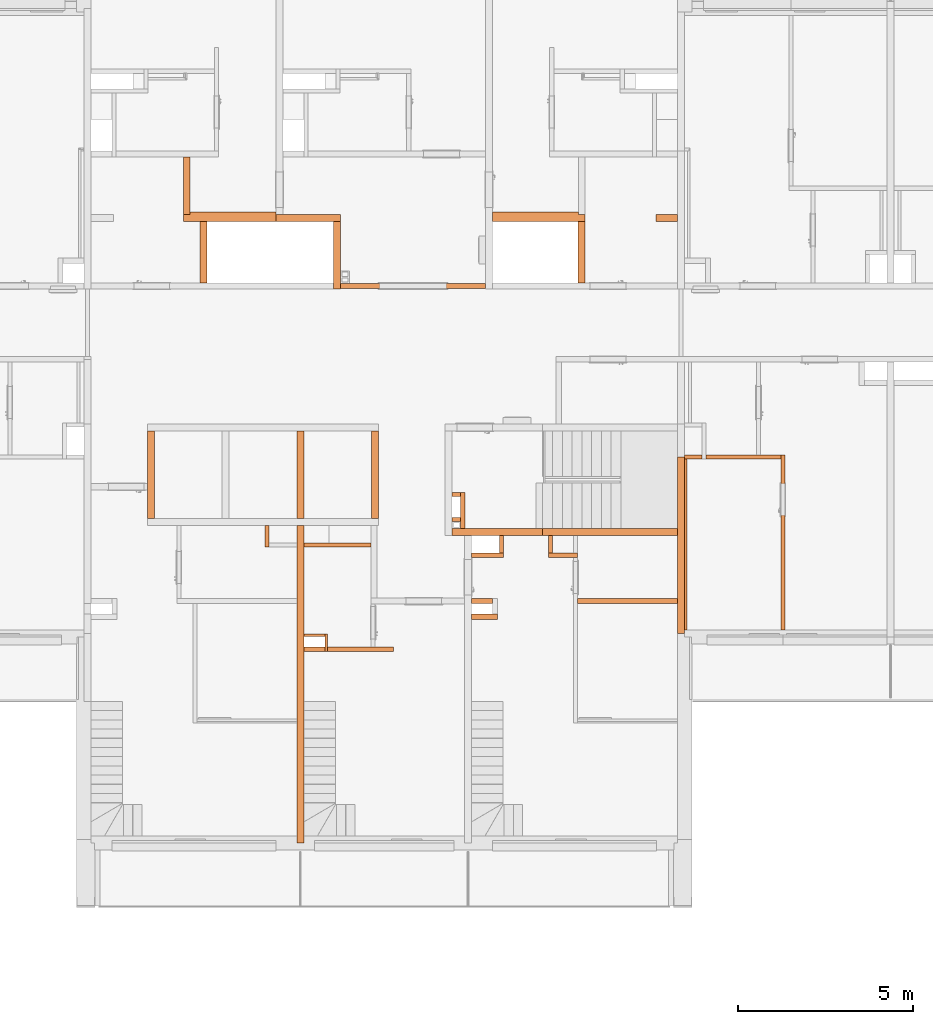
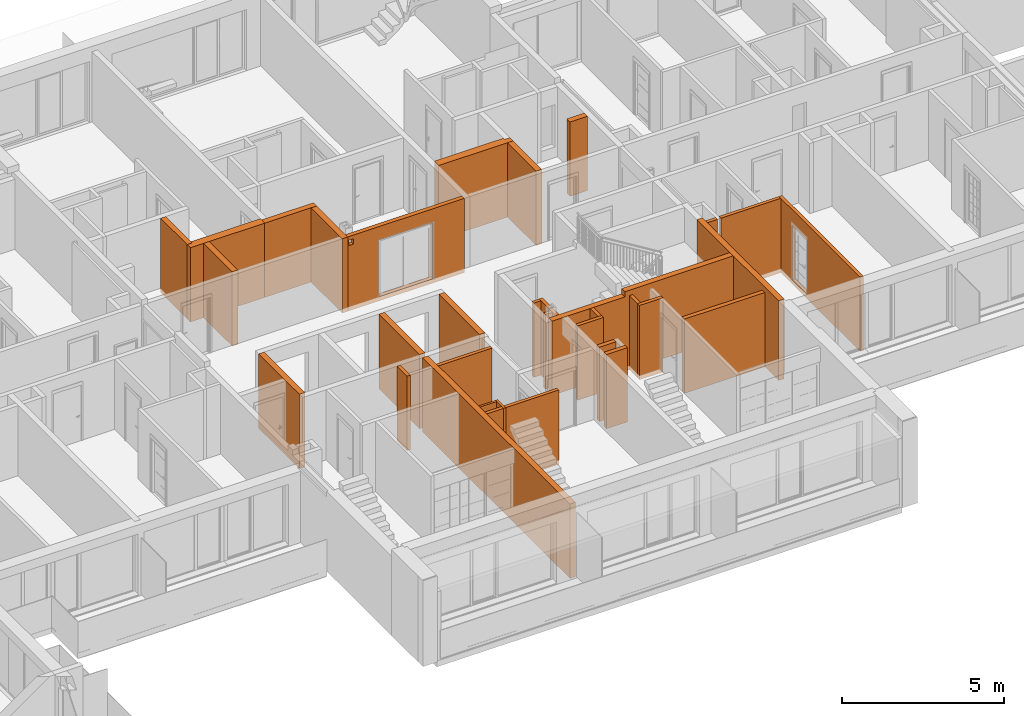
# One storey, part 52 of 61: 32 proxies, 3 openings.
"""IFC2X3 building model written with IfcOpenShell, lengths in millimetres."""

import ifcopenshell
import ifcopenshell.guid

model = None  # the IFC model being written
_history = None  # IfcOwnerHistory: only IFC2X3 demands one
_inside = {}  # id of a spatial element -> (the spatial element, [elements in it])
_under = {}  # id of a project, library or spatial element -> (it, [spatial elements below it])
_declared = {}  # id of a project -> (the project, [libraries it declares])
_typed = {}  # id of a type object -> (the type object, [elements of that type])
_made_of = {}  # id of a material, layer set ... -> (it, [elements and type objects made of it])


def new_model(schema):
    """Start an empty IFC model of exactly this schema.

    Asked for "IFC4X3", IfcOpenShell would pick the latest addendum, in which some entities
    have other attributes; the version numbers below select the first issue.
    IFC2X3 requires an IfcOwnerHistory on every rooted entity: one is made here for all.
    """
    global model, _history
    if schema == "IFC4X3":
        model = ifcopenshell.file(schema_version=(4, 3, 0, 0))
    else:
        model = ifcopenshell.file(schema=schema)
    _inside.clear()
    _under.clear()
    _declared.clear()
    _typed.clear()
    _made_of.clear()
    _history = None
    if model.schema == "IFC2X3":
        org = make("IfcOrganization", Name="unknown")
        user = make(
            "IfcPersonAndOrganization",
            ThePerson=make("IfcPerson", FamilyName="unknown"),
            TheOrganization=org,
        )
        app = make(
            "IfcApplication",
            ApplicationDeveloper=org,
            Version="unknown",
            ApplicationFullName="unknown",
            ApplicationIdentifier="unknown",
        )
        _history = make(
            "IfcOwnerHistory",
            OwningUser=user,
            OwningApplication=app,
            ChangeAction="ADDED",
            CreationDate=0,
        )
    return model


def make(cls, **values):
    """One entity of the class cls with the attributes given. An attribute that is None is left unset."""
    return model.create_entity(
        cls, **{name: value for name, value in values.items() if value is not None}
    )


def entity(cls, *values):
    """Any entity or typed value of the class cls, its attributes in the order of the schema. None: left unset."""
    e = model.create_entity(cls)
    for i, value in enumerate(values):
        if value is not None:
            e[i] = value
    return e


def rooted(cls, **values):
    """An entity with a GlobalId (a new one), such as an element, a storey or a relation."""
    return make(cls, GlobalId=ifcopenshell.guid.new(), OwnerHistory=_history, **values)


def si_unit(unit_type, name, prefix=None):
    """IfcSIUnit, for example si_unit("LENGTHUNIT", "METRE", prefix="MILLI")."""
    return make("IfcSIUnit", UnitType=unit_type, Prefix=prefix, Name=name)


def converted_unit(unit_type, name, factor, base, dimensions=None, offset=None):
    """IfcConversionBasedUnit, such as the inch: factor (a typed value) times the base unit."""
    return make(
        "IfcConversionBasedUnit"
        if offset is None
        else "IfcConversionBasedUnitWithOffset",
        ConversionOffset=offset,
        Dimensions=None
        if dimensions is None
        else entity("IfcDimensionalExponents", *dimensions),
        UnitType=unit_type,
        Name=name,
        ConversionFactor=make(
            "IfcMeasureWithUnit", ValueComponent=factor, UnitComponent=base
        ),
    )


def derived_unit(unit_type, elements):
    """IfcDerivedUnit: a product of units, each with its exponent."""
    return make(
        "IfcDerivedUnit",
        Elements=[
            make("IfcDerivedUnitElement", Unit=unit, Exponent=power)
            for unit, power in elements
        ],
        UnitType=unit_type,
    )


def money_unit(currency):
    """IfcMonetaryUnit."""
    return make("IfcMonetaryUnit", Currency=currency)


def assignment(units):
    """IfcUnitAssignment: the units of a project."""
    return None if units is None else make("IfcUnitAssignment", Units=units)


def point(xyz):
    """IfcCartesianPoint."""
    return None if xyz is None else make("IfcCartesianPoint", Coordinates=xyz)


def direction(xyz):
    """IfcDirection."""
    return None if xyz is None else make("IfcDirection", DirectionRatios=xyz)


def frame(location, z_axis=None, x_axis=None):
    """IfcAxis2Placement3D, a coordinate frame: its origin and axes. An axis left out is left unset."""
    return make(
        "IfcAxis2Placement3D",
        Location=point(location),
        Axis=direction(z_axis),
        RefDirection=direction(x_axis),
    )


def frame_2d(location, x_axis=None):
    """IfcAxis2Placement2D, a coordinate frame in the plane: its origin and x axis."""
    return make(
        "IfcAxis2Placement2D", Location=point(location), RefDirection=direction(x_axis)
    )


def origin_with_axes():
    """The frame at (0, 0, 0) with the z axis (0, 0, 1) and the x axis (1, 0, 0) written out."""
    return frame((0.0, 0.0, 0.0), z_axis=(0.0, 0.0, 1.0), x_axis=(1.0, 0.0, 0.0))


def origin_2d_with_axis():
    """The frame at (0, 0) in the plane with the x axis (1, 0) written out."""
    return frame_2d((0.0, 0.0), x_axis=(1.0, 0.0))


def place(relative_to, where):
    """IfcLocalPlacement: puts the frame where relative to a parent placement (None: the world)."""
    return make(
        "IfcLocalPlacement", PlacementRelTo=relative_to, RelativePlacement=where
    )


def context(
    kind, dimensions, precision=None, world=None, true_north=None, identifier=None
):
    """IfcGeometricRepresentationContext, for example the 3D "Model" context."""
    return make(
        "IfcGeometricRepresentationContext",
        ContextIdentifier=identifier,
        ContextType=kind,
        CoordinateSpaceDimension=dimensions,
        Precision=precision,
        WorldCoordinateSystem=world,
        TrueNorth=true_north,
    )


def subcontext(parent, identifier, kind, view, scale=None):
    """IfcGeometricRepresentationSubContext, for example "Body" below "Model"."""
    return make(
        "IfcGeometricRepresentationSubContext",
        ContextIdentifier=identifier,
        ContextType=kind,
        ParentContext=parent,
        TargetScale=scale,
        TargetView=view,
    )


def project(units=None, contexts=None):
    """IfcProject with its units and contexts."""
    return rooted(
        "IfcProject",
        Name="project",
        RepresentationContexts=contexts,
        UnitsInContext=assignment(units),
    )


def spatial(cls, under=None, at=None, **own):
    """A site, building, storey or space (cls), placed at a placement, below another one or the project."""
    s = rooted(cls, ObjectPlacement=at, **own)
    if under is not None:
        _under.setdefault(under.id(), (under, []))[1].append(s)
    return s


def profile(cls, at=None, kind="AREA", **sizes):
    """A parametric profile (cls). Its sizes go by their IFC names, for example OverallWidth=200.0."""
    return make(cls, ProfileType=kind, Position=at, **sizes)


def rectangle(**sizes):
    """IfcRectangleProfileDef."""
    return profile("IfcRectangleProfileDef", **sizes)


def extrude(swept, where, along, depth):
    """IfcExtrudedAreaSolid: the profile swept, set in the frame where, extruded along a direction by depth."""
    return make(
        "IfcExtrudedAreaSolid",
        SweptArea=swept,
        Position=where,
        ExtrudedDirection=direction(along),
        Depth=depth,
    )


def faces_of(points, faces, orient=None, outer=None):
    """IfcFace entities. A face is a list of loops; a loop is a list of indices into points, from 0.

    orient and outer hold one flag for each loop. By default every Orientation is true, the
    first loop of a face is its IfcFaceOuterBound and the others are IfcFaceBound.
    """
    made = []
    for i, loops in enumerate(faces):
        bounds = []
        for j, loop in enumerate(loops):
            is_outer = j == 0 if outer is None else outer[i][j]
            bounds.append(
                make(
                    "IfcFaceOuterBound" if is_outer else "IfcFaceBound",
                    Bound=make("IfcPolyLoop", Polygon=[points[k] for k in loop]),
                    Orientation=True if orient is None else orient[i][j],
                )
            )
        made.append(make("IfcFace", Bounds=bounds))
    return made


def faceted_brep(points, faces, orient=None, outer=None, voids=None):
    """IfcFacetedBrep: a solid bounded by flat faces; with voids (closed shells), ...WithVoids."""
    shared = [point(p) for p in points]
    hull = make("IfcClosedShell", CfsFaces=faces_of(shared, faces, orient, outer))
    if voids is None:
        return make("IfcFacetedBrep", Outer=hull)
    return make(
        "IfcFacetedBrepWithVoids",
        Outer=hull,
        Voids=[
            make(cls, CfsFaces=faces_of(shared, fs, o, b)) for cls, fs, o, b in voids
        ],
    )


def shape(context_of_items, identifier, shape_type, items):
    """IfcShapeRepresentation: the items that make up one representation, for example the "Body"."""
    return make(
        "IfcShapeRepresentation",
        ContextOfItems=context_of_items,
        RepresentationIdentifier=identifier,
        RepresentationType=shape_type,
        Items=items,
    )


def material(Name=None, Category=None):
    """IfcMaterial."""
    return make("IfcMaterial", Name=Name, Category=Category)


def material_list(materials):
    """IfcMaterialList."""
    return make("IfcMaterialList", Materials=materials)


def made_of(thing, what):
    """Note that an element or type object is made of a material, layer set ...; save() writes the relation."""
    if what is not None:
        _made_of.setdefault(what.id(), (what, []))[1].append(thing)
    return thing


def type_object(cls, material=None, **own):
    """A type object (cls), such as IfcWallType, which elements share."""
    return made_of(rooted(cls, **own), material)


def element(
    cls,
    number,
    at=None,
    inside=None,
    cuts=None,
    type_object=None,
    material=None,
    context=None,
    identifier="Body",
    shape_type=None,
    held_by="IfcProductDefinitionShape",
    body=None,
    shapes=None,
    **own,
):
    """One element of the class cls, such as IfcWall. Its Tag is "e" and its number.

    at: its placement. inside: the storey or other place that contains it. cuts: it is an
    opening in that element (IfcRelVoidsElement). A single representation is given by context,
    identifier, shape_type and body (its items); several are given by shapes. held_by: the class
    of the entity that holds the representations. save() writes the other relations.
    """
    e = rooted(cls, Tag="e%d" % number, ObjectPlacement=at, **own)
    if body is not None:
        shapes = [shape(context, identifier, shape_type, body)]
    if shapes is not None:
        e.Representation = make(held_by, Representations=shapes)
    if inside is not None:
        _inside.setdefault(inside.id(), (inside, []))[1].append(e)
    if cuts is not None:
        rooted(
            "IfcRelVoidsElement", RelatingBuildingElement=cuts, RelatedOpeningElement=e
        )
    if type_object is not None:
        _typed.setdefault(type_object.id(), (type_object, []))[1].append(e)
    return made_of(e, material)


def aggregate(whole, parts):
    """IfcRelAggregates: a whole, such as a stair, and the parts it consists of."""
    return rooted("IfcRelAggregates", RelatingObject=whole, RelatedObjects=parts)


def save(model, path):
    """Write the relations noted so far, then the file.

    IfcRelAggregates (storeys below a building ...), IfcRelContainedInSpatialStructure (elements
    in a storey), IfcRelDefinesByType, IfcRelAssociatesMaterial and IfcRelDeclares: one each for
    every whole, place, type object, material and project.
    """
    for whole, parts in _under.values():
        aggregate(whole, parts)
    for where, things in _inside.values():
        rooted(
            "IfcRelContainedInSpatialStructure",
            RelatedElements=things,
            RelatingStructure=where,
        )
    for kind, things in _typed.values():
        rooted("IfcRelDefinesByType", RelatedObjects=things, RelatingType=kind)
    for what, things in _made_of.values():
        rooted("IfcRelAssociatesMaterial", RelatedObjects=things, RelatingMaterial=what)
    for by, libraries in _declared.values():
        rooted("IfcRelDeclares", RelatingContext=by, RelatedDefinitions=libraries)
    model.write(path)


model = new_model("IFC2X3")

# Units and contexts
model_context = context("Model", 3, precision=0.01, world=origin_with_axes(), true_north=direction((0.34421633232, 0.938890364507)))
body_context = subcontext(model_context, "Body", "Model", "MODEL_VIEW")
ifc_project = project(units=[si_unit("LENGTHUNIT", "METRE", prefix="MILLI"), si_unit("AREAUNIT", "SQUARE_METRE"), si_unit("VOLUMEUNIT", "CUBIC_METRE"), converted_unit("PLANEANGLEUNIT", "DEGREE", entity("IfcPlaneAngleMeasure", 0.0174532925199), si_unit("PLANEANGLEUNIT", "RADIAN"), dimensions=[0, 0, 0, 0, 0, 0, 0]), si_unit("SOLIDANGLEUNIT", "STERADIAN"), money_unit("USD"), converted_unit("TIMEUNIT", "Year", entity("IfcTimeMeasure", 31556926.0), si_unit("TIMEUNIT", "SECOND"), dimensions=[0, 0, 1, 0, 0, 0, 0]), si_unit("MASSUNIT", "GRAM", prefix="KILO"), si_unit("THERMODYNAMICTEMPERATUREUNIT", "DEGREE_CELSIUS"), si_unit("LUMINOUSINTENSITYUNIT", "LUMEN"), si_unit("ENERGYUNIT", "JOULE", prefix="MEGA"), derived_unit("THERMALCONDUCTANCEUNIT", [(si_unit("POWERUNIT", "WATT"), 1), (si_unit("LENGTHUNIT", "METRE"), -1), (si_unit("THERMODYNAMICTEMPERATUREUNIT", "KELVIN"), -1)]), derived_unit("SPECIFICHEATCAPACITYUNIT", [(si_unit("ENERGYUNIT", "JOULE"), 1), (si_unit("MASSUNIT", "GRAM", prefix="KILO"), -1), (si_unit("THERMODYNAMICTEMPERATUREUNIT", "KELVIN"), -1)]), derived_unit("MASSDENSITYUNIT", [(si_unit("MASSUNIT", "GRAM", prefix="KILO"), 1), (si_unit("VOLUMEUNIT", "CUBIC_METRE"), -1)])], contexts=[model_context])

# Site, building, storey
site_placement = place(None, origin_with_axes())
site = spatial("IfcSite", under=ifc_project, at=site_placement, Name="USTRONIE MORSKIE", CompositionType="ELEMENT")
building_placement = place(site_placement, origin_with_axes())
building = spatial("IfcBuilding", under=site, at=building_placement, Name="Budynek", CompositionType="ELEMENT")
storey_placement = place(building_placement, frame((0.0, 0.0, 13000.0), z_axis=(0.0, 0.0, 1.0), x_axis=(1.0, 0.0, 0.0)))
storey = spatial("IfcBuildingStorey", under=building, at=storey_placement, Name="PIĘTRO 4", CompositionType="ELEMENT", Elevation=13000.0)

# Proxies
ifc_material_1 = material(Name="Bloczki silikatowe")
building_element_proxy_type_1 = type_object("IfcBuildingElementProxyType", Name="Bloczki silikatowe 120", PredefinedType="NOTDEFINED")
proxy_1_placement = place(storey_placement, frame((392577.920919, 729201.199036, -160.0), z_axis=(0.0, 0.0, 1.0), x_axis=(0.0, 1.0, 0.0)))
element("IfcBuildingElementProxy", 1, at=proxy_1_placement, inside=storey, type_object=building_element_proxy_type_1, material=ifc_material_1, Name="SW-04", context=body_context, shape_type="Brep", body=[
    faceted_brep([(500.0, 60.0, 0.0), (500.0, -60.0, 0.0), (0.0, -60.0, 0.0), (0.0, 60.0, 0.0), (500.0, 60.0, 2800.0), (500.0, -60.0, 2800.0), (0.0, -60.0, 2800.0), (0.0, 60.0, 2800.0)], [[[0, 1, 2, 3]], [[1, 0, 4, 5]], [[1, 5, 6, 2]], [[7, 3, 2, 6]], [[4, 0, 3, 7]], [[5, 4, 7, 6]]]),
])
proxy_2_placement = place(storey_placement, frame((396317.920919, 731951.199132, -160.0), z_axis=(0.0, 0.0, 1.0), x_axis=(1.0, 0.0, 0.0)))
element("IfcBuildingElementProxy", 2, at=proxy_2_placement, inside=storey, type_object=building_element_proxy_type_1, material=ifc_material_1, Name="SW-04", context=body_context, shape_type="Brep", body=[
    faceted_brep([(600.004475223, 59.9999999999, 0.0), (100.0, 59.9999999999, 0.0), (100.0, 59.9999999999, 2800.0), (600.004475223, 59.9999999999, 2800.0), (100.0, -59.9999999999, 0.0), (100.0, 0.0, 0.0), (600.008213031, -59.9999999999, 0.0), (100.0, 0.0, 2800.0), (100.0, -59.9999999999, 2800.0), (600.008213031, -59.9999999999, 2800.0)], [[[0, 1, 2, 3]], [[4, 5, 1, 0, 6]], [[5, 7, 2, 1]], [[2, 7, 8, 9, 3]], [[6, 0, 3, 9]], [[4, 8, 7, 5]], [[9, 8, 4, 6]]]),
    faceted_brep([(720.004475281, 59.9999999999, 0.0), (720.004475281, 59.9999999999, 2800.0), (2860.01935038, 59.9999999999, 2800.0), (2860.01935038, 59.9999999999, 0.0), (720.008213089, -59.9999999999, 2800.0), (720.008213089, -59.9999999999, 0.0), (2860.01935038, -59.9999999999, 2800.0), (2860.01935038, -59.9999999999, 0.0)], [[[0, 1, 2, 3]], [[4, 1, 0, 5]], [[1, 4, 6, 2]], [[3, 2, 6, 7]], [[5, 0, 3, 7]], [[4, 5, 7, 6]]]),
])
proxy_3_placement = place(storey_placement, frame((389757.920919, 730821.199036, -230.0), z_axis=(0.0, 0.0, 1.0), x_axis=(1.0, 0.0, 0.0)))
element("IfcBuildingElementProxy", 3, at=proxy_3_placement, inside=storey, type_object=building_element_proxy_type_1, material=ifc_material_1, Name="SW-04", context=body_context, shape_type="Brep", body=[
    faceted_brep([(250.0, 0.0, 2870.0), (250.0, 0.0, 70.0), (250.0, 120.0, 70.0), (250.0, 120.0, 2870.0), (0.0, 0.0, 2870.0), (0.0, 0.0, 70.0), (0.0, 120.0, 70.0), (0.0, 120.0, 2870.0)], [[[0, 1, 2, 3]], [[4, 5, 1, 0]], [[5, 6, 2, 1]], [[3, 2, 6, 7]], [[4, 0, 3, 7]], [[7, 6, 5, 4]]]),
])
proxy_4_placement = place(storey_placement, frame((385417.920919, 726446.199036, -160.0), z_axis=(0.0, 0.0, 1.0), x_axis=(1.0, 0.0, 0.0)))
element("IfcBuildingElementProxy", 4, at=proxy_4_placement, inside=storey, type_object=building_element_proxy_type_1, material=ifc_material_1, Name="SW-04", context=body_context, shape_type="Brep", body=[
    faceted_brep([(700.000154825, 59.9999999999, 0.0), (700.000154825, -59.9999999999, 0.0), (100.0, -59.9999999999, 0.0), (100.0, 59.9999999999, 0.0), (700.000154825, 59.9999999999, 2800.0), (700.000154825, -59.9999999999, 2800.0), (100.0, -59.9999999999, 2800.0), (100.0, 59.9999999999, 2800.0)], [[[0, 1, 2, 3]], [[1, 0, 4, 5]], [[1, 5, 6, 2]], [[7, 3, 2, 6]], [[4, 0, 3, 7]], [[5, 4, 7, 6]]]),
    faceted_brep([(780.000154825, 59.9999999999, 0.0), (2670.0, 59.9999999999, 0.0), (2670.0, -59.9999999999, 0.0), (780.000154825, -59.9999999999, 0.0), (780.000154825, 59.9999999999, 2800.0), (2670.0, 59.9999999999, 2800.0), (2670.0, -59.9999999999, 2800.0), (780.000154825, -59.9999999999, 2800.0)], [[[0, 1, 2, 3]], [[4, 5, 1, 0]], [[2, 1, 5, 6]], [[3, 2, 6, 7]], [[4, 0, 3, 7]], [[7, 6, 5, 4]]]),
])
proxy_5_placement = place(storey_placement, frame((384517.920018, 729491.199036, -160.0), z_axis=(0.0, 0.0, 1.0), x_axis=(0.0, 1.0, 0.0)))
element("IfcBuildingElementProxy", 5, at=proxy_5_placement, inside=storey, type_object=building_element_proxy_type_1, material=ifc_material_1, Name="SW-04", context=body_context, shape_type="Brep", body=[
    faceted_brep([(500.0, 120.0, 0.0), (500.0, 0.0, 0.0), (-120.0, 0.0, 0.0), (-120.0, 120.0, 0.0), (500.0, 120.0, 2800.0), (500.0, 0.0, 2800.0), (-120.0, 0.0, 2800.0), (-120.0, 120.0, 2800.0)], [[[0, 1, 2, 3]], [[1, 0, 4, 5]], [[1, 5, 6, 2]], [[7, 3, 2, 6]], [[4, 0, 3, 7]], [[5, 4, 7, 6]]]),
])
proxy_6_placement = place(storey_placement, frame((390007.920919, 730821.199036, -230.0), z_axis=(0.0, 0.0, 1.0), x_axis=(0.0, -1.0, 0.0)))
element("IfcBuildingElementProxy", 6, at=proxy_6_placement, inside=storey, type_object=building_element_proxy_type_1, material=ifc_material_1, Name="SW-04", context=body_context, shape_type="Brep", body=[
    faceted_brep([(920.0, 120.0, 2870.0), (920.0, 120.0, 70.0), (-120.0, 120.0, 70.0), (-120.0, 120.0, 2870.0), (920.0, 0.0, 2870.0), (920.0, 0.0, 70.0), (-120.0, 0.0, 70.0), (-120.0, 0.0, 2870.0)], [[[0, 1, 2, 3]], [[4, 5, 1, 0]], [[5, 6, 2, 1]], [[3, 2, 6, 7]], [[3, 7, 4, 0]], [[7, 6, 5, 4]]]),
])
proxy_7_placement = place(storey_placement, frame((391117.92182, 729201.199036, -160.0), z_axis=(0.0, 0.0, 1.0), x_axis=(0.0, 1.0, 0.0)))
element("IfcBuildingElementProxy", 7, at=proxy_7_placement, inside=storey, type_object=building_element_proxy_type_1, material=ifc_material_1, Name="SW-04", context=body_context, shape_type="Brep", body=[
    faceted_brep([(500.0, -120.0, 2800.0), (500.0, 0.0, 2800.0), (0.0, 0.0, 2800.0), (0.0, -120.0, 2800.0), (500.0, -120.0, 0.0), (500.0, 0.0, 0.0), (0.0, 0.0, 0.0), (0.0, -120.0, 0.0)], [[[0, 1, 2, 3]], [[1, 0, 4, 5]], [[1, 5, 6, 2]], [[7, 3, 2, 6]], [[4, 0, 3, 7]], [[5, 4, 7, 6]]]),
])
proxy_8_placement = place(storey_placement, frame((392577.920919, 729201.199036, -160.0), z_axis=(0.0, 0.0, 1.0), x_axis=(1.0, 0.0, 0.0)))
element("IfcBuildingElementProxy", 8, at=proxy_8_placement, inside=storey, type_object=building_element_proxy_type_1, material=ifc_material_1, Name="SW-04", context=body_context, shape_type="Brep", body=[
    faceted_brep([(780.0, -120.0, 2800.0), (780.0, 0.0, 2800.0), (-60.0, 0.0, 2800.0), (-60.0, -120.0, 2800.0), (780.0, -120.0, 0.0), (780.0, 0.0, 0.0), (-60.0, 0.0, 0.0), (-60.0, -120.0, 0.0)], [[[0, 1, 2, 3]], [[1, 0, 4, 5]], [[1, 5, 6, 2]], [[7, 3, 2, 6]], [[4, 0, 3, 7]], [[5, 4, 7, 6]]]),
])
proxy_9_placement = place(storey_placement, frame((387527.920919, 729491.199036, -160.0), z_axis=(0.0, 0.0, 1.0), x_axis=(-1.0, 0.0, 0.0)))
element("IfcBuildingElementProxy", 9, at=proxy_9_placement, inside=storey, type_object=building_element_proxy_type_1, material=ifc_material_1, Name="SW-04", context=body_context, shape_type="Brep", body=[
    faceted_brep([(90.0, 0.0, 0.0), (2010.0, 0.0, 0.0), (2010.0, 0.0, 2800.0), (90.0, 0.0, 2800.0), (90.0, 120.0, 0.0), (2010.0, 120.0, 0.0), (2010.0, 120.0, 2800.0), (90.0, 120.0, 2800.0)], [[[0, 1, 2, 3]], [[4, 5, 1, 0]], [[5, 6, 2, 1]], [[3, 2, 6, 7]], [[7, 4, 0, 3]], [[7, 6, 5, 4]]]),
])

# Proxy, opening
proxy_10_placement = place(storey_placement, frame((399237.940269, 731951.199132, -160.0), z_axis=(0.0, 0.0, 1.0), x_axis=(0.0, -1.0, 0.0)))
proxy_10 = element("IfcBuildingElementProxy", 10, at=proxy_10_placement, inside=storey, type_object=building_element_proxy_type_1, material=ifc_material_1, Name="SW-04", context=body_context, shape_type="Brep", body=[
    faceted_brep([(4950.00009633, 60.0, 0.0), (4950.00009633, -60.0, 0.0), (-59.9999999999, -60.0, 0.0), (-59.9999999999, 60.0, 0.0), (4950.00009633, 60.0, 2800.0), (4950.00009633, -60.0, 2800.0), (-59.9999999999, -60.0, 2800.0), (-59.9999999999, 60.0, 2800.0)], [[[0, 1, 2, 3]], [[1, 0, 4, 5]], [[1, 5, 6, 2]], [[7, 3, 2, 6]], [[4, 0, 3, 7]], [[5, 4, 7, 6]]]),
])
opening_1_placement = place(proxy_10_placement, frame((1220.00038806, 0.0, 160.0), z_axis=(0.0, 0.0, 1.0), x_axis=(1.0, 0.0, 0.0)))
element("IfcOpeningElement", 11, at=opening_1_placement, cuts=proxy_10, Name="Dw.03", context=body_context, shape_type="SweptSolid", body=[
    extrude(rectangle(XDim=920.0, YDim=2070.0, at=origin_2d_with_axis()), frame((0.0, -120.0, 1035.0), z_axis=(0.0, 1.0, 0.0), x_axis=(-1.0, 0.0, 0.0)), (0.0, 0.0, 1.0), 360.0),
    extrude(rectangle(XDim=994.0, YDim=2177.0, at=origin_2d_with_axis()), frame((0.0, -60.0, 1088.5), z_axis=(0.0, 1.0, 0.0), x_axis=(-1.0, 0.0, 0.0)), (0.0, 0.0, -1.0), 120.0),
    extrude(rectangle(XDim=994.0, YDim=2177.0, at=origin_2d_with_axis()), frame((0.0, 60.0, 1088.5), z_axis=(0.0, -1.0, 0.0), x_axis=(-1.0, 0.0, 0.0)), (0.0, 0.0, -1.0), 120.0),
])

# Proxies
proxy_11_placement = place(storey_placement, frame((390217.920919, 729201.199036, -160.0), z_axis=(0.0, 0.0, 1.0), x_axis=(1.0, 0.0, 0.0)))
element("IfcBuildingElementProxy", 12, at=proxy_11_placement, inside=storey, type_object=building_element_proxy_type_1, material=ifc_material_1, Name="SW-04", context=body_context, shape_type="Brep", body=[
    faceted_brep([(1020.00090117, -120.0, 2800.0), (1020.00090117, 0.0, 2800.0), (100.0, 0.0, 2800.0), (100.0, -120.0, 2800.0), (1020.00090117, -120.0, 0.0), (1020.00090117, 0.0, 0.0), (100.0, 0.0, 0.0), (100.0, -120.0, 0.0)], [[[0, 1, 2, 3]], [[1, 0, 4, 5]], [[1, 5, 6, 2]], [[7, 3, 2, 6]], [[4, 0, 3, 7]], [[5, 4, 7, 6]]]),
])
proxy_12_placement = place(storey_placement, frame((389757.920919, 730101.199036, -230.0), z_axis=(0.0, 0.0, 1.0), x_axis=(1.0, 0.0, 0.0)))
element("IfcBuildingElementProxy", 13, at=proxy_12_placement, inside=storey, type_object=building_element_proxy_type_1, material=ifc_material_1, Name="SW-04", context=body_context, shape_type="Brep", body=[
    faceted_brep([(250.0, 0.0, 2870.0), (250.0, 0.0, 70.0), (250.0, 120.0, 70.0), (250.0, 120.0, 2870.0), (0.0, 0.0, 2870.0), (0.0, 0.0, 70.0), (0.0, 120.0, 70.0), (0.0, 120.0, 2870.0)], [[[0, 1, 2, 3]], [[4, 5, 1, 0]], [[5, 6, 2, 1]], [[3, 2, 6, 7]], [[4, 0, 3, 7]], [[7, 6, 5, 4]]]),
])
building_element_proxy_type_2 = type_object("IfcBuildingElementProxyType", Name="Bloczki silikatowe 180", PredefinedType="NOTDEFINED")
proxy_13_placement = place(storey_placement, frame((382067.920919, 738801.199036, -160.0), z_axis=(0.0, 0.0, 1.0), x_axis=(0.0, 1.0, 0.0)))
element("IfcBuildingElementProxy", 14, at=proxy_13_placement, inside=storey, type_object=building_element_proxy_type_2, material=ifc_material_1, Name="SW-02", context=body_context, shape_type="Brep", body=[
    faceted_brep([(1740.0, 0.0, 0.0), (1740.0, 0.0, 2800.0), (1740.0, -180.0, 2800.0), (1740.0, -180.0, 0.0), (100.0, 0.0, 0.0), (100.0, 0.0, 2800.0), (100.0, -180.0, 2800.0), (100.0, -180.0, 0.0)], [[[0, 1, 2, 3]], [[4, 5, 1, 0]], [[5, 6, 2, 1]], [[3, 2, 6, 7]], [[0, 3, 7, 4]], [[7, 6, 5, 4]]]),
])
building_element_proxy_type_3 = type_object("IfcBuildingElementProxyType", Name="Bloczki silikatowe 80", PredefinedType="NOTDEFINED")
proxy_14_placement = place(storey_placement, frame((386117.921074, 726446.199036, -160.0), z_axis=(0.0, 0.0, 1.0), x_axis=(0.0, 1.0, 0.0)))
element("IfcBuildingElementProxy", 15, at=proxy_14_placement, inside=storey, type_object=building_element_proxy_type_3, material=ifc_material_1, Name="Ściana-010", context=body_context, shape_type="Brep", body=[
    faceted_brep([(440.0, -80.0, 2800.0), (440.0, 0.0, 2800.0), (-59.9999999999, 0.0, 2800.0), (-59.9999999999, -80.0, 2800.0), (440.0, -80.0, 0.0), (440.0, 0.0, 0.0), (-59.9999999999, 0.0, 0.0), (-59.9999999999, -80.0, 0.0)], [[[0, 1, 2, 3]], [[1, 0, 4, 5]], [[1, 5, 6, 2]], [[7, 3, 2, 6]], [[4, 0, 3, 7]], [[5, 4, 7, 6]]]),
])
proxy_15_placement = place(storey_placement, frame((386117.921074, 726806.199036, -160.0), z_axis=(0.0, 0.0, 1.0), x_axis=(-1.0, 0.0, 0.0)))
element("IfcBuildingElementProxy", 16, at=proxy_15_placement, inside=storey, type_object=building_element_proxy_type_3, material=ifc_material_1, Name="Ściana-010", context=body_context, shape_type="Brep", body=[
    faceted_brep([(600.000154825, -80.0, 2800.0), (600.000154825, 0.0, 2800.0), (0.0, 0.0, 2800.0), (0.0, -80.0, 2800.0), (600.000154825, -80.0, 0.0), (600.000154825, 0.0, 0.0), (0.0, 0.0, 0.0), (0.0, -80.0, 0.0)], [[[0, 1, 2, 3]], [[1, 0, 4, 5]], [[1, 5, 6, 2]], [[7, 3, 2, 6]], [[4, 0, 3, 7]], [[5, 4, 7, 6]]]),
])

# Proxy, openings
building_element_proxy_type_4 = type_object("IfcBuildingElementProxyType", Name="Bloczki silikatowe 150", PredefinedType="NOTDEFINED")
proxy_16_placement = place(storey_placement, frame((386467.920919, 736851.199036, -160.0), z_axis=(0.0, 0.0, 1.0), x_axis=(1.0, 0.0, 0.0)))
proxy_16 = element("IfcBuildingElementProxy", 17, at=proxy_16_placement, inside=storey, type_object=building_element_proxy_type_4, material=ifc_material_1, Name="SW-03", context=body_context, shape_type="Brep", body=[
    faceted_brep([(100.0, -75.0, 2800.0), (4250.0, -75.0, 2800.0), (4250.0, 75.0, 2800.0), (100.0, 75.0, 2800.0), (100.0, -75.0, 0.0), (4250.0, -75.0, 0.0), (4250.0, 75.0, 0.0), (100.0, 75.0, 0.0)], [[[0, 1, 2, 3]], [[4, 5, 1, 0]], [[5, 6, 2, 1]], [[3, 2, 6, 7]], [[4, 0, 3, 7]], [[7, 6, 5, 4]]]),
])
opening_2_placement = place(proxy_16_placement, frame((225.0, 0.0, 2460.0), z_axis=(0.0, 0.0, 1.0), x_axis=(1.0, 0.0, 0.0)))
element("IfcOpeningElement", 18, at=opening_2_placement, cuts=proxy_16, Name="xx", context=body_context, shape_type="SweptSolid", body=[
    extrude(rectangle(XDim=150.0, YDim=200.0, at=origin_2d_with_axis()), frame((0.0, -75.0, 100.0), z_axis=(0.0, 1.0, 0.0), x_axis=(1.0, 0.0, 0.0)), (0.0, 0.0, -1.0), 150.0),
    extrude(rectangle(XDim=150.0, YDim=200.0, at=origin_2d_with_axis()), frame((0.0, -75.0, 100.0), z_axis=(0.0, -1.0, 0.0), x_axis=(1.0, 0.0, 0.0)), (0.0, 0.0, -1.0), 150.0),
])
opening_3_placement = place(proxy_16_placement, frame((2175.0, 0.0, 160.0), z_axis=(0.0, 0.0, 1.0), x_axis=(1.0, 0.0, 0.0)))
element("IfcOpeningElement", 19, at=opening_3_placement, cuts=proxy_16, Name="Dw5", context=body_context, shape_type="SweptSolid", body=[
    extrude(rectangle(XDim=1920.0, YDim=2120.0, at=origin_2d_with_axis()), frame((0.0, 150.0, 1060.0), z_axis=(0.0, 1.0, 0.0), x_axis=(1.0, 0.0, 0.0)), (0.0, 0.0, -1.0), 450.0),
    extrude(rectangle(XDim=1994.0, YDim=2157.0, at=origin_2d_with_axis()), frame((0.0, 74.9999999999, 1078.5), z_axis=(0.0, 1.0, 0.0), x_axis=(1.0, 0.0, 0.0)), (0.0, 0.0, 1.0), 150.0),
    extrude(rectangle(XDim=1994.0, YDim=2157.0, at=origin_2d_with_axis()), frame((0.0, -75.0, 1078.5), z_axis=(0.0, -1.0, 0.0), x_axis=(1.0, 0.0, 0.0)), (0.0, 0.0, 1.0), 150.0),
])

# Proxies
proxy_17_placement = place(storey_placement, frame((390217.920919, 727751.199036, -160.0), z_axis=(0.0, 0.0, 1.0), x_axis=(1.0, 0.0, 0.0)))
element("IfcBuildingElementProxy", 20, at=proxy_17_placement, inside=storey, type_object=building_element_proxy_type_4, material=ifc_material_1, Name="SW-03", context=body_context, shape_type="Brep", body=[
    faceted_brep([(700.00090117, 0.0, 2800.0), (700.00090117, 150.0, 2800.0), (100.0, 150.0, 2800.0), (100.0, 0.0, 2800.0), (700.00090117, 0.0, 0.0), (700.00090117, 150.0, 0.0), (100.0, 150.0, 0.0), (100.0, 0.0, 0.0)], [[[0, 1, 2, 3]], [[1, 0, 4, 5]], [[1, 5, 6, 2]], [[7, 3, 2, 6]], [[4, 0, 3, 7]], [[5, 4, 7, 6]]]),
])
proxy_18_placement = place(storey_placement, frame((390217.920919, 727451.199036, -160.0), z_axis=(0.0, 0.0, 1.0), x_axis=(1.0, 0.0, 0.0)))
element("IfcBuildingElementProxy", 21, at=proxy_18_placement, inside=storey, type_object=building_element_proxy_type_4, material=ifc_material_1, Name="SW-03", context=body_context, shape_type="Brep", body=[
    faceted_brep([(850.00090117, -150.0, 2800.0), (850.00090117, 0.0, 2800.0), (100.0, 0.0, 2800.0), (100.0, -150.0, 2800.0), (850.00090117, -150.0, 0.0), (850.00090117, 0.0, 0.0), (100.0, 0.0, 0.0), (100.0, -150.0, 0.0)], [[[0, 1, 2, 3]], [[1, 0, 4, 5]], [[1, 5, 6, 2]], [[7, 3, 2, 6]], [[4, 0, 3, 7]], [[5, 4, 7, 6]]]),
])
proxy_19_placement = place(storey_placement, frame((396317.920919, 727826.199036, -160.0), z_axis=(0.0, 0.0, 1.0), x_axis=(-1.0, 0.0, 0.0)))
element("IfcBuildingElementProxy", 22, at=proxy_19_placement, inside=storey, type_object=building_element_proxy_type_4, material=ifc_material_1, Name="SW-03", context=body_context, shape_type="Brep", body=[
    faceted_brep([(2960.0, 75.0, 0.0), (2960.0, -75.0, 0.0), (100.0, -75.0, 0.0), (100.0, 75.0, 0.0), (2960.0, 75.0, 2800.0), (2960.0, -75.0, 2800.0), (100.0, -75.0, 2800.0), (100.0, 75.0, 2800.0)], [[[0, 1, 2, 3]], [[1, 0, 4, 5]], [[1, 5, 6, 2]], [[7, 3, 2, 6]], [[4, 0, 3, 7]], [[5, 4, 7, 6]]]),
])
ifc_material_2 = material(Name="Beton konstrukcyjny B25")
building_element_proxy_type_5 = type_object("IfcBuildingElementProxyType", Name="Beton konstrukcyjny B25 200", PredefinedType="NOTDEFINED")
proxy_20_placement = place(storey_placement, frame((385417.920919, 732801.199036, -160.0), z_axis=(0.0, 0.0, 1.0), x_axis=(0.0, -1.0, 0.0)))
element("IfcBuildingElementProxy", 23, at=proxy_20_placement, inside=storey, type_object=building_element_proxy_type_5, material=ifc_material_2, Name="SW-01", context=body_context, shape_type="Brep", body=[
    faceted_brep([(100.0, -100.0, 0.0), (100.0, -100.0, 2800.0), (100.0, 100.0, 2800.0), (100.0, 100.0, 0.0), (2610.0, -100.0, 0.0), (2610.0, -100.0, 2800.0), (2610.0, 100.0, 2800.0), (2610.0, 99.9999999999, 0.0)], [[[0, 1, 2, 3]], [[4, 5, 1, 0]], [[5, 6, 2, 1]], [[3, 2, 6, 7]], [[0, 3, 7, 4]], [[7, 6, 5, 4]]]),
])
proxy_21_placement = place(storey_placement, frame((381137.920919, 732801.199036, -160.0), z_axis=(0.0, 0.0, 1.0), x_axis=(0.0, -1.0, 0.0)))
element("IfcBuildingElementProxy", 24, at=proxy_21_placement, inside=storey, type_object=building_element_proxy_type_5, material=ifc_material_2, Name="SW-01", context=body_context, shape_type="Brep", body=[
    faceted_brep([(2610.0, -100.0, 2800.0), (2610.0, 100.0, 2800.0), (100.0, 100.0, 2800.0), (100.0, -100.0, 2800.0), (2610.0, -100.0, 0.0), (2610.0, 100.0, 0.0), (100.0, 100.0, 0.0), (100.0, -100.0, 0.0)], [[[0, 1, 2, 3]], [[1, 0, 4, 5]], [[1, 5, 6, 2]], [[7, 3, 2, 6]], [[4, 0, 3, 7]], [[5, 4, 7, 6]]]),
])
proxy_22_placement = place(storey_placement, frame((385417.920919, 730091.199036, -160.0), z_axis=(0.0, 0.0, 1.0), x_axis=(0.0, -1.0, 0.0)))
element("IfcBuildingElementProxy", 25, at=proxy_22_placement, inside=storey, type_object=building_element_proxy_type_5, material=ifc_material_2, Name="SW-01", context=body_context, shape_type="Brep", body=[
    faceted_brep([(100.0, -100.0, 2800.0), (9190.0, -100.0, 2800.0), (9190.0, 100.0, 2800.0), (100.0, 100.0, 2800.0), (100.0, -100.0, 0.0), (9190.0, -100.0, 0.0), (9190.0, 100.0, 0.0), (100.0, 100.0, 0.0)], [[[0, 1, 2, 3]], [[4, 5, 1, 0]], [[6, 2, 1, 5]], [[3, 2, 6, 7]], [[7, 4, 0, 3]], [[7, 6, 5, 4]]]),
])
proxy_23_placement = place(storey_placement, frame((382737.920919, 738801.199036, -160.0), z_axis=(0.0, 0.0, 1.0), x_axis=(0.0, -1.0, 0.0)))
element("IfcBuildingElementProxy", 26, at=proxy_23_placement, inside=storey, type_object=building_element_proxy_type_5, material=ifc_material_2, Name="SW-01", context=body_context, shape_type="Brep", body=[
    faceted_brep([(1870.0, 0.0, 0.0), (1870.0, -200.0, 0.0), (100.0, -200.0, 0.0), (100.0, 0.0, 0.0), (1870.0, 0.0, 2800.0), (1870.0, -200.0, 2800.0), (100.0, -200.0, 2800.0), (100.0, 0.0, 2800.0)], [[[0, 1, 2, 3]], [[1, 0, 4, 5]], [[1, 5, 6, 2]], [[7, 3, 2, 6]], [[4, 0, 3, 7]], [[5, 4, 7, 6]]]),
])
proxy_24_placement = place(storey_placement, frame((393367.920919, 736851.199036, -160.0), z_axis=(0.0, 0.0, 1.0), x_axis=(0.0, 1.0, 0.0)))
element("IfcBuildingElementProxy", 27, at=proxy_24_placement, inside=storey, type_object=building_element_proxy_type_5, material=ifc_material_2, Name="SW-01", context=body_context, shape_type="Brep", body=[
    faceted_brep([(1850.0, 0.0, 0.0), (1850.0, 0.0, 2800.0), (1850.0, -200.0, 2800.0), (1850.0, -200.0, 0.0), (80.0, 0.0, 0.0), (80.0, 0.0, 2800.0), (80.0, -200.0, 2800.0), (80.0, -200.0, 0.0)], [[[0, 1, 2, 3]], [[4, 5, 1, 0]], [[5, 6, 2, 1]], [[3, 2, 6, 7]], [[4, 0, 3, 7]], [[7, 6, 5, 4]]]),
])
proxy_25_placement = place(storey_placement, frame((396317.920919, 729801.199036, -160.0), z_axis=(0.0, 0.0, 1.0), x_axis=(-1.0, 0.0, 0.0)))
element("IfcBuildingElementProxy", 28, at=proxy_25_placement, inside=storey, type_object=building_element_proxy_type_5, material=ifc_material_2, Name="SW-01", context=body_context, shape_type="Brep", body=[
    faceted_brep([(3959.99989457, -100.0, 2800.0), (3959.99989457, -100.0, 3000.0), (100.0, -100.0, 3000.0), (100.0, -100.0, 0.0), (6560.0, -100.0, 0.0), (6560.0, -100.0, 2800.0), (3959.99989457, 100.000158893, 2800.0), (3959.99989457, 100.000158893, 3000.0), (100.0, 100.0, 3000.0), (100.0, 100.0, 0.0), (6560.0, 100.0, 0.0), (6560.0, 100.0, 2800.0)], [[[0, 1, 2, 3, 4, 5]], [[6, 7, 1, 0]], [[2, 1, 7, 8]], [[2, 8, 9, 3]], [[3, 9, 10, 4]], [[10, 11, 5, 4]], [[6, 0, 5, 11]], [[7, 6, 11, 10, 9, 8]]]),
])
proxy_26_placement = place(storey_placement, frame((386467.920919, 738801.199036, -160.0), z_axis=(0.0, 0.0, 1.0), x_axis=(0.0, -1.0, 0.0)))
element("IfcBuildingElementProxy", 29, at=proxy_26_placement, inside=storey, type_object=building_element_proxy_type_5, material=ifc_material_2, Name="SW-01", context=body_context, shape_type="Brep", body=[
    faceted_brep([(100.0, -100.0, 2800.0), (2030.0, -100.0, 2800.0), (2030.0, 100.0, 2800.0), (100.0, 100.0, 2800.0), (100.0, -100.0, 0.0), (2030.0, -100.0, 0.0), (2030.0, 100.0, 0.0), (100.0, 100.0, 0.0)], [[[0, 1, 2, 3]], [[4, 5, 1, 0]], [[6, 2, 1, 5]], [[3, 2, 6, 7]], [[7, 4, 0, 3]], [[7, 6, 5, 4]]]),
])
proxy_27_placement = place(storey_placement, frame((387557.920919, 732801.199036, -160.0), z_axis=(0.0, 0.0, 1.0), x_axis=(0.0, -1.0, 0.0)))
element("IfcBuildingElementProxy", 30, at=proxy_27_placement, inside=storey, type_object=building_element_proxy_type_5, material=ifc_material_2, Name="SW-01", context=body_context, shape_type="Brep", body=[
    faceted_brep([(2610.0, -100.0, 2800.0), (2610.0, 100.0, 2800.0), (100.0, 100.0, 2800.0), (100.0, -100.0, 2800.0), (2610.0, -100.0, 0.0), (2610.0, 100.0, 0.0), (100.0, 100.0, 0.0), (100.0, -100.0, 0.0)], [[[0, 1, 2, 3]], [[1, 0, 4, 5]], [[1, 5, 6, 2]], [[7, 3, 2, 6]], [[4, 0, 3, 7]], [[5, 4, 7, 6]]]),
])
proxy_28_placement = place(storey_placement, frame((386467.920919, 738801.199036, -160.0), z_axis=(0.0, 0.0, 1.0), x_axis=(-1.0, 0.0, 0.0)))
element("IfcBuildingElementProxy", 31, at=proxy_28_placement, inside=storey, type_object=building_element_proxy_type_5, material=ifc_material_2, Name="SW-01", context=body_context, shape_type="Brep", body=[
    faceted_brep([(-100.0, -100.0, 2800.0), (1750.0, -100.0, 2800.0), (1750.0, 100.0, 2800.0), (-100.0, 100.0, 2800.0), (-100.0, -100.0, 0.0), (1750.0, -100.0, 0.0), (1750.0, 100.0, 0.0), (-100.0, 100.0, 0.0)], [[[0, 1, 2, 3]], [[4, 5, 1, 0]], [[2, 1, 5, 6]], [[3, 2, 6, 7]], [[4, 0, 3, 7]], [[7, 6, 5, 4]]]),
])
proxy_29_placement = place(storey_placement, frame((395597.920919, 738801.199036, -160.0), z_axis=(0.0, 0.0, 1.0), x_axis=(1.0, 0.0, 0.0)))
element("IfcBuildingElementProxy", 32, at=proxy_29_placement, inside=storey, type_object=building_element_proxy_type_5, material=ifc_material_2, Name="SW-01", context=body_context, shape_type="Brep", body=[
    faceted_brep([(619.990397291, 100.0, 0.0), (619.990397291, -100.0, 0.0), (0.0, -100.0, 0.0), (0.0, 100.0, 0.0), (619.990397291, 100.0, 2800.0), (619.990397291, -100.0, 2800.0), (0.0, -100.0, 2800.0), (0.0, 100.0, 2800.0)], [[[0, 1, 2, 3]], [[1, 0, 4, 5]], [[1, 5, 6, 2]], [[7, 3, 2, 6]], [[4, 0, 3, 7]], [[5, 4, 7, 6]]]),
])
ifc_material_3 = material(Name="Płyta GK")
ifc_material_4 = material(Name="Izolacja akustyczna")
ifc_material_list_1 = material_list([ifc_material_3, ifc_material_4, ifc_material_2])
building_element_proxy_type_6 = type_object("IfcBuildingElementProxyType", Name="20+5 AKU 275", PredefinedType="NOTDEFINED")
proxy_30_placement = place(storey_placement, frame((390817.920919, 738801.199036, -160.0), z_axis=(0.0, 0.0, 1.0), x_axis=(1.0, 0.0, 0.0)))
element("IfcBuildingElementProxy", 33, at=proxy_30_placement, inside=storey, type_object=building_element_proxy_type_6, material=ifc_material_list_1, Name="SW-01", context=body_context, shape_type="Brep", body=[
    faceted_brep([(2570.0, 150.0, 145.0), (2570.0, 175.0, 145.0), (2570.0, 175.0, 2800.0), (2570.0, 150.0, 2800.0), (100.0, 175.0, 145.0), (100.0, 150.0, 145.0), (100.0, 175.0, 2800.0), (1750.0, 175.0, 2800.0), (1750.0, 150.0, 2800.0), (100.0, 150.0, 2800.0)], [[[0, 1, 2, 3]], [[4, 1, 0, 5]], [[1, 4, 6, 7, 2]], [[7, 8, 3, 2]], [[5, 0, 3, 8, 9]], [[4, 5, 9, 6]], [[8, 7, 6, 9]]]),
    faceted_brep([(2570.0, 100.0, 145.0), (2570.0, 150.0, 145.0), (2570.0, 150.0, 2800.0), (2570.0, 100.0, 2800.0), (100.0, 150.0, 145.0), (100.0, 100.0, 145.0), (100.0, 150.0, 2800.0), (1750.0, 150.0, 2800.0), (1750.0, 100.0, 2800.0), (100.0, 100.0, 2800.0)], [[[0, 1, 2, 3]], [[4, 1, 0, 5]], [[1, 4, 6, 7, 2]], [[7, 8, 3, 2]], [[5, 0, 3, 8, 9]], [[4, 5, 9, 6]], [[8, 7, 6, 9]]]),
    faceted_brep([(100.0, 100.0, 2800.0), (1750.0, 100.0, 2800.0), (2750.0, 100.0, 2800.0), (2750.0, 100.0, 0.0), (100.0, 100.0, 0.0), (1750.0, -100.0, 2800.0), (100.0, -100.0, 2800.0), (2750.0, -100.0, 2800.0), (2750.0, -100.0, 0.0), (100.0, -100.0, 0.0)], [[[0, 1, 2, 3, 4]], [[5, 1, 0, 6]], [[1, 5, 7, 2]], [[2, 7, 8, 3]], [[8, 9, 4, 3]], [[6, 0, 4, 9]], [[5, 6, 9, 8, 7]]]),
])
ifc_material_list_2 = material_list([ifc_material_2, ifc_material_4, ifc_material_3])
proxy_31_placement = place(storey_placement, frame((384717.920919, 738801.199036, -160.0), z_axis=(0.0, 0.0, 1.0), x_axis=(-1.0, 0.0, 0.0)))
element("IfcBuildingElementProxy", 34, at=proxy_31_placement, inside=storey, type_object=building_element_proxy_type_6, material=ifc_material_list_2, Name="SW-01", context=body_context, shape_type="Brep", body=[
    faceted_brep([(2650.0, -100.0, 0.0), (0.0, -100.0, 0.0), (0.0, 100.0, 0.0), (2650.0, 100.0, 0.0), (2650.0, -100.0, 2800.0), (0.0, -100.0, 2800.0), (0.0, 100.0, 2800.0), (2650.0, 100.0, 2800.0)], [[[0, 1, 2, 3]], [[4, 5, 1, 0]], [[2, 1, 5, 6]], [[3, 2, 6, 7]], [[3, 7, 4, 0]], [[7, 6, 5, 4]]]),
    faceted_brep([(0.0, -100.0, 145.0), (2470.0, -100.0, 145.0), (2470.0, -150.0, 145.0), (0.0, -150.0, 145.0), (0.0, -100.0, 2800.0), (2470.0, -100.0, 2800.0), (2470.0, -150.0, 2800.0), (0.0, -150.0, 2800.0)], [[[0, 1, 2, 3]], [[1, 0, 4, 5]], [[2, 1, 5, 6]], [[2, 6, 7, 3]], [[0, 3, 7, 4]], [[6, 5, 4, 7]]]),
    faceted_brep([(0.0, -150.0, 145.0), (2470.0, -150.0, 145.0), (2470.0, -175.0, 145.0), (0.0, -175.0, 145.0), (0.0, -150.0, 2800.0), (2470.0, -150.0, 2800.0), (2470.0, -175.0, 2800.0), (0.0, -175.0, 2800.0)], [[[0, 1, 2, 3]], [[1, 0, 4, 5]], [[2, 1, 5, 6]], [[2, 6, 7, 3]], [[0, 3, 7, 4]], [[6, 5, 4, 7]]]),
])
proxy_32_placement = place(storey_placement, frame((396317.920919, 726901.199036, -160.0), z_axis=(0.0, 0.0, 1.0), x_axis=(0.0, 1.0, 0.0)))
element("IfcBuildingElementProxy", 35, at=proxy_32_placement, inside=storey, type_object=building_element_proxy_type_6, material=ifc_material_list_2, Name="Œciana-007", context=body_context, shape_type="Brep", body=[
    faceted_brep([(5050.00009633, -100.0, 0.0), (0.0, -100.0, 0.0), (0.0, 100.0, 0.0), (5050.00009633, 100.0, 0.0), (5050.00009633, -100.0, 3000.0), (0.0, -100.0, 3000.0), (0.0, 100.0, 3000.0), (5050.00009633, 100.0, 3000.0)], [[[0, 1, 2, 3]], [[4, 5, 1, 0]], [[1, 5, 6, 2]], [[3, 2, 6, 7]], [[7, 4, 0, 3]], [[7, 6, 5, 4]]]),
    faceted_brep([(4990.00009633, -100.000000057, 2800.0), (4990.00009633, -150.0, 2800.0), (4990.00009633, -150.0, 145.0), (4990.00009633, -100.0, 145.0), (100.0, -150.0, 2800.0), (100.0, -100.000000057, 2800.0), (100.0, -150.0, 145.0), (100.0, -100.0, 145.0)], [[[0, 1, 2, 3]], [[4, 1, 0, 5]], [[1, 4, 6, 2]], [[2, 6, 7, 3]], [[5, 0, 3, 7]], [[4, 5, 7, 6]]]),
    faceted_brep([(4990.00009633, -150.0, 2800.0), (4990.00009633, -175.0, 2800.0), (4990.00009633, -175.0, 145.0), (4990.00009633, -150.0, 145.0), (100.0, -175.0, 2800.0), (100.0, -150.0, 2800.0), (100.0, -175.0, 145.0), (100.0, -150.0, 145.0)], [[[0, 1, 2, 3]], [[4, 1, 0, 5]], [[1, 4, 6, 2]], [[2, 6, 7, 3]], [[5, 0, 3, 7]], [[4, 5, 7, 6]]]),
])

save(model, "model.ifc")
